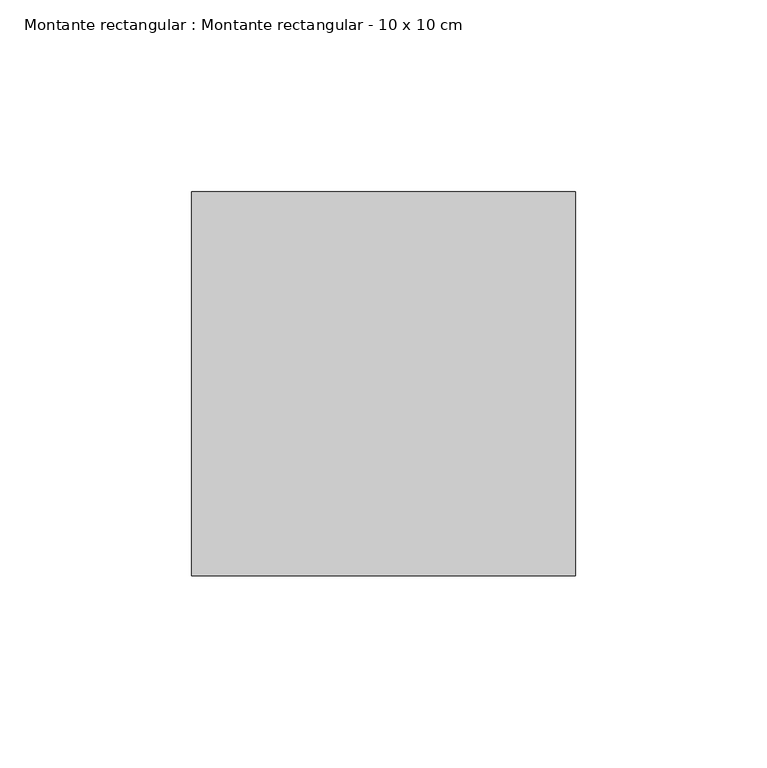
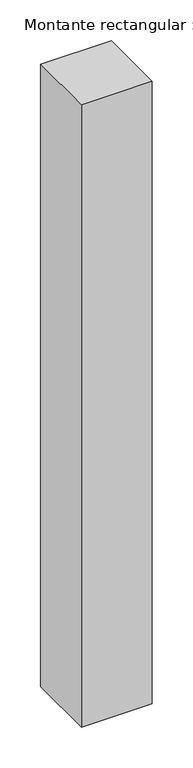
"""IFC4 building model written with IfcOpenShell, lengths in millimetres: member geometry, Montante rectangular : Montante rectangular - 10 x 10 cm."""

from ifc_helpers import new_model, si_unit, frame, origin, place, context, project, spatial, polyline, outline, extrude, source, transform, mapped, element, save


def montante_rectangular_montante_rectangular_10_x_10_cm_a0c0aff6(model_context):
    return source(origin(), model_context, "Body", "SweptSolid", [
        extrude(outline(polyline([(0.0, 50.0), (0.0, -50.0), (-100.0, -50.0), (-100.0, 50.0), (0.0, 50.0)])), frame((0.0, 0.0, -930.0), z_axis=(0.0, 0.0, 1.0), x_axis=(1.0, 0.0, 0.0)), (0.0, 0.0, 1.0), 930.0),
    ])


if __name__ == "__main__":
    model = new_model("IFC4")
    model_context = context("Model", 3, world=origin())
    ifc_project = project(units=[si_unit("LENGTHUNIT", "METRE", prefix="MILLI")], contexts=[model_context])
    site = spatial("IfcSite", under=ifc_project)
    building = spatial("IfcBuilding", under=site)
    placement = place(None, origin())
    montante_rectangular_montante_rectangular_10_x_10_cm_shape = montante_rectangular_montante_rectangular_10_x_10_cm_a0c0aff6(model_context)
    element("IfcMember", 1, ObjectType="Montante rectangular : Montante rectangular - 10 x 10 cm", at=placement, inside=building, context=model_context, shape_type="MappedRepresentation", body=[
        mapped(montante_rectangular_montante_rectangular_10_x_10_cm_shape, transform((0.0, 0.0, 0.0), x_axis=(1.0, 0.0, 0.0), y_axis=(0.0, 1.0, 0.0), z_axis=(0.0, 0.0, 1.0))),
    ])
    save(model, "model.ifc")
